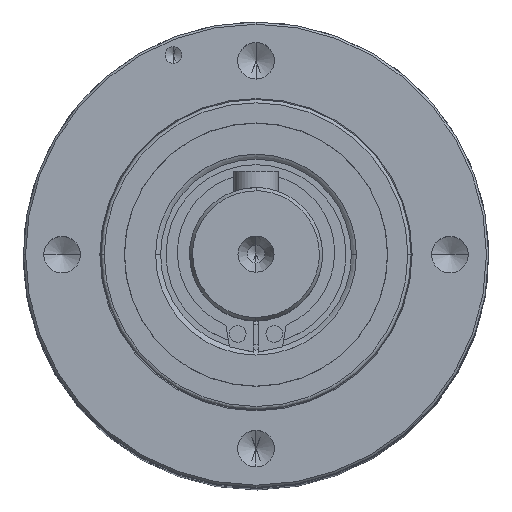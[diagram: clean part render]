
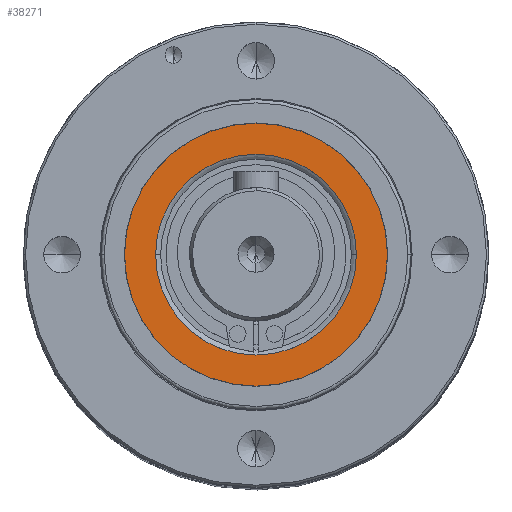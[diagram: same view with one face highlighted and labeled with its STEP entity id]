
A CAD part, top view. The second image highlights one B-rep face of the part: STEP entity #38271.
In plain terms, the highlighted planar face has unit normal (0, 0, 1).
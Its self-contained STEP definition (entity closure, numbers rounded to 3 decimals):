
#59 = VERTEX_POINT ( 'NONE', #38518 ) ;
#1420 = CARTESIAN_POINT ( 'NONE',  ( 16.996, -8.599, 123.885 ) ) ;
#3893 = CARTESIAN_POINT ( 'NONE',  ( -3.929, -8.599, 123.885 ) ) ;
#4273 = EDGE_CURVE ( 'NONE', #75405, #48978, #26680, .T. ) ;
#5977 = CIRCLE ( 'NONE', #82023, 9.06 ) ;
#6579 = AXIS2_PLACEMENT_3D ( 'NONE', #48319, #22775, #36553 ) ;
#15939 = AXIS2_PLACEMENT_3D ( 'NONE', #48895, #17901, #43000 ) ;
#16283 = DIRECTION ( 'NONE',  ( 0., 0., -1. ) ) ;
#17901 = DIRECTION ( 'NONE',  ( 0., 0., 1. ) ) ;
#18211 = DIRECTION ( 'NONE',  ( 0., 0., -1. ) ) ;
#22775 = DIRECTION ( 'NONE',  ( 0., 0., -1. ) ) ;
#24385 = CARTESIAN_POINT ( 'NONE',  ( 5.131, -8.599, 123.885 ) ) ;
#24919 = CARTESIAN_POINT ( 'NONE',  ( 5.131, -8.599, 123.885 ) ) ;
#26680 = CIRCLE ( 'NONE', #15939, 11.865 ) ;
#27658 = FACE_BOUND ( 'NONE', #80161, .T. ) ;
#29954 = ORIENTED_EDGE ( 'NONE', *, *, #37220, .T. ) ;
#30695 = DIRECTION ( 'NONE',  ( 1., 0., 0. ) ) ;
#32490 = EDGE_CURVE ( 'NONE', #75405, #48978, #50375, .T. ) ;
#35558 = VERTEX_POINT ( 'NONE', #3893 ) ;
#36553 = DIRECTION ( 'NONE',  ( 1., 0., 0. ) ) ;
#37220 = EDGE_CURVE ( 'NONE', #59, #35558, #61350, .T. ) ;
#38271 = ADVANCED_FACE ( 'NONE', ( #27658, #65199 ), #77307, .F. ) ;
#38518 = CARTESIAN_POINT ( 'NONE',  ( 14.191, -8.599, 123.885 ) ) ;
#40959 = CARTESIAN_POINT ( 'NONE',  ( 5.131, -8.599, 123.885 ) ) ;
#42198 = DIRECTION ( 'NONE',  ( 0., 1., 0. ) ) ;
#43000 = DIRECTION ( 'NONE',  ( 1., 0., 0. ) ) ;
#43690 = DIRECTION ( 'NONE',  ( 1., 0., 0. ) ) ;
#44271 = AXIS2_PLACEMENT_3D ( 'NONE', #40959, #16283, #42198 ) ;
#48319 = CARTESIAN_POINT ( 'NONE',  ( 5.131, -8.599, 123.885 ) ) ;
#48674 = CARTESIAN_POINT ( 'NONE',  ( -6.734, -8.599, 123.885 ) ) ;
#48895 = CARTESIAN_POINT ( 'NONE',  ( 5.131, -8.599, 123.885 ) ) ;
#48978 = VERTEX_POINT ( 'NONE', #48674 ) ;
#48979 = EDGE_CURVE ( 'NONE', #59, #35558, #5977, .T. ) ;
#50375 = CIRCLE ( 'NONE', #74372, 11.865 ) ;
#61350 = CIRCLE ( 'NONE', #6579, 9.06 ) ;
#65199 = FACE_OUTER_BOUND ( 'NONE', #79396, .T. ) ;
#74157 = DIRECTION ( 'NONE',  ( 0., 0., 1. ) ) ;
#74372 = AXIS2_PLACEMENT_3D ( 'NONE', #24919, #18211, #43690 ) ;
#75405 = VERTEX_POINT ( 'NONE', #1420 ) ;
#75635 = ORIENTED_EDGE ( 'NONE', *, *, #4273, .T. ) ;
#77307 = PLANE ( 'NONE',  #44271 ) ;
#79396 = EDGE_LOOP ( 'NONE', ( #81042, #75635 ) ) ;
#80161 = EDGE_LOOP ( 'NONE', ( #82495, #29954 ) ) ;
#81042 = ORIENTED_EDGE ( 'NONE', *, *, #32490, .F. ) ;
#82023 = AXIS2_PLACEMENT_3D ( 'NONE', #24385, #74157, #30695 ) ;
#82495 = ORIENTED_EDGE ( 'NONE', *, *, #48979, .F. ) ;
